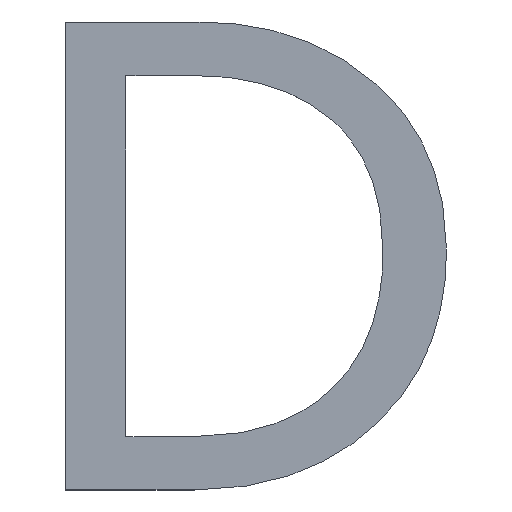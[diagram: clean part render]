
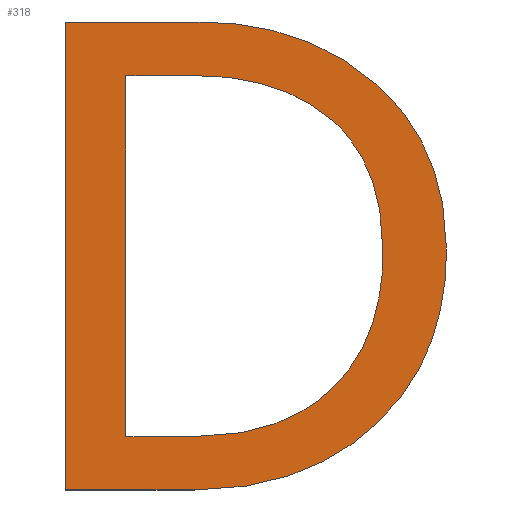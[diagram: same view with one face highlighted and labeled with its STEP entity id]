
A CAD part, top view. The second image highlights one B-rep face of the part: STEP entity #318.
In plain terms, the highlighted planar face has unit normal (0, 0, 1).
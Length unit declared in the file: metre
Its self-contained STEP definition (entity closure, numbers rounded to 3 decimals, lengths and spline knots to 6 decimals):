
#19=PLANE('',#435);
#27=LINE('',#565,#53);
#30=LINE('',#571,#56);
#32=LINE('',#574,#58);
#35=LINE('',#581,#61);
#38=LINE('',#587,#64);
#45=LINE('',#668,#71);
#53=VECTOR('',#447,1.);
#56=VECTOR('',#452,1.);
#58=VECTOR('',#456,1.);
#61=VECTOR('',#461,1.);
#64=VECTOR('',#466,1.);
#71=VECTOR('',#475,1.);
#142=ORIENTED_EDGE('',*,*,#174,.F.);
#143=ORIENTED_EDGE('',*,*,#176,.F.);
#144=ORIENTED_EDGE('',*,*,#158,.F.);
#145=ORIENTED_EDGE('',*,*,#162,.F.);
#146=ORIENTED_EDGE('',*,*,#165,.F.);
#147=ORIENTED_EDGE('',*,*,#168,.F.);
#148=ORIENTED_EDGE('',*,*,#171,.F.);
#149=ORIENTED_EDGE('',*,*,#197,.T.);
#150=ORIENTED_EDGE('',*,*,#194,.T.);
#151=ORIENTED_EDGE('',*,*,#191,.T.);
#152=ORIENTED_EDGE('',*,*,#188,.T.);
#153=ORIENTED_EDGE('',*,*,#185,.T.);
#154=ORIENTED_EDGE('',*,*,#182,.T.);
#155=ORIENTED_EDGE('',*,*,#179,.T.);
#158=EDGE_CURVE('',#200,#201,#227,.T.);
#162=EDGE_CURVE('',#203,#200,#229,.T.);
#165=EDGE_CURVE('',#205,#203,#231,.T.);
#168=EDGE_CURVE('',#207,#205,#233,.T.);
#171=EDGE_CURVE('',#209,#207,#27,.T.);
#174=EDGE_CURVE('',#211,#209,#30,.T.);
#176=EDGE_CURVE('',#201,#211,#32,.T.);
#179=EDGE_CURVE('',#215,#214,#35,.T.);
#182=EDGE_CURVE('',#217,#215,#38,.T.);
#185=EDGE_CURVE('',#219,#217,#235,.T.);
#188=EDGE_CURVE('',#221,#219,#237,.T.);
#191=EDGE_CURVE('',#223,#221,#239,.T.);
#194=EDGE_CURVE('',#225,#223,#241,.T.);
#197=EDGE_CURVE('',#214,#225,#45,.T.);
#200=VERTEX_POINT('',#496);
#201=VERTEX_POINT('',#501);
#203=VERTEX_POINT('',#517);
#205=VERTEX_POINT('',#536);
#207=VERTEX_POINT('',#555);
#209=VERTEX_POINT('',#564);
#211=VERTEX_POINT('',#570);
#214=VERTEX_POINT('',#580);
#215=VERTEX_POINT('',#582);
#217=VERTEX_POINT('',#588);
#219=VERTEX_POINT('',#607);
#221=VERTEX_POINT('',#626);
#223=VERTEX_POINT('',#645);
#225=VERTEX_POINT('',#664);
#227=B_SPLINE_CURVE_WITH_KNOTS('',3,(#497,#498,#499,#500),.UNSPECIFIED.,
 .F.,.F.,(4,4),(5.,6.),.UNSPECIFIED.);
#229=B_SPLINE_CURVE_WITH_KNOTS('',3,(#518,#519,#520,#521),.UNSPECIFIED.,
 .F.,.F.,(4,4),(4.,5.),.UNSPECIFIED.);
#231=B_SPLINE_CURVE_WITH_KNOTS('',3,(#537,#538,#539,#540),.UNSPECIFIED.,
 .F.,.F.,(4,4),(3.,4.),.UNSPECIFIED.);
#233=B_SPLINE_CURVE_WITH_KNOTS('',3,(#556,#557,#558,#559),.UNSPECIFIED.,
 .F.,.F.,(4,4),(2.,3.),.UNSPECIFIED.);
#235=B_SPLINE_CURVE_WITH_KNOTS('',3,(#603,#604,#605,#606),.UNSPECIFIED.,
 .F.,.F.,(4,4),(2.,3.),.UNSPECIFIED.);
#237=B_SPLINE_CURVE_WITH_KNOTS('',3,(#622,#623,#624,#625),.UNSPECIFIED.,
 .F.,.F.,(4,4),(3.,4.),.UNSPECIFIED.);
#239=B_SPLINE_CURVE_WITH_KNOTS('',3,(#641,#642,#643,#644),.UNSPECIFIED.,
 .F.,.F.,(4,4),(4.,5.),.UNSPECIFIED.);
#241=B_SPLINE_CURVE_WITH_KNOTS('',3,(#660,#661,#662,#663),.UNSPECIFIED.,
 .F.,.F.,(4,4),(5.,6.),.UNSPECIFIED.);
#258=EDGE_LOOP('',(#142,#143,#144,#145,#146,#147,#148));
#259=EDGE_LOOP('',(#149,#150,#151,#152,#153,#154,#155));
#276=FACE_BOUND('',#258,.T.);
#277=FACE_BOUND('',#259,.T.);
#318=ADVANCED_FACE('',(#276,#277),#19,.T.);
#435=AXIS2_PLACEMENT_3D('',#670,#478,#479);
#447=DIRECTION('',(1.,0.,0.));
#452=DIRECTION('',(0.,-1.,0.));
#456=DIRECTION('',(-1.,0.,0.));
#461=DIRECTION('',(0.,-1.,0.));
#466=DIRECTION('',(-1.,0.,0.));
#475=DIRECTION('',(1.,0.,0.));
#478=DIRECTION('',(0.,0.,1.));
#479=DIRECTION('',(1.,0.,0.));
#496=CARTESIAN_POINT('',(-0.062509,-0.006434,0.024401));
#497=CARTESIAN_POINT('',(-0.062509,-0.006434,0.024401));
#498=CARTESIAN_POINT('',(-0.062567,-0.006385,0.024401));
#499=CARTESIAN_POINT('',(-0.062643,-0.00636,0.024401));
#500=CARTESIAN_POINT('',(-0.062738,-0.00636,0.024401));
#501=CARTESIAN_POINT('',(-0.062738,-0.00636,0.024401));
#517=CARTESIAN_POINT('',(-0.062422,-0.006658,0.024401));
#518=CARTESIAN_POINT('',(-0.062422,-0.006658,0.024401));
#519=CARTESIAN_POINT('',(-0.062422,-0.006559,0.024401));
#520=CARTESIAN_POINT('',(-0.062451,-0.006484,0.024401));
#521=CARTESIAN_POINT('',(-0.062509,-0.006434,0.024401));
#536=CARTESIAN_POINT('',(-0.062507,-0.006889,0.024401));
#537=CARTESIAN_POINT('',(-0.062507,-0.006889,0.024401));
#538=CARTESIAN_POINT('',(-0.06245,-0.006834,0.024401));
#539=CARTESIAN_POINT('',(-0.062422,-0.006757,0.024401));
#540=CARTESIAN_POINT('',(-0.062422,-0.006658,0.024401));
#555=CARTESIAN_POINT('',(-0.062743,-0.006971,0.024401));
#556=CARTESIAN_POINT('',(-0.062743,-0.006971,0.024401));
#557=CARTESIAN_POINT('',(-0.062642,-0.006971,0.024401));
#558=CARTESIAN_POINT('',(-0.062563,-0.006944,0.024401));
#559=CARTESIAN_POINT('',(-0.062507,-0.006889,0.024401));
#564=CARTESIAN_POINT('',(-0.062858,-0.006971,0.024401));
#565=CARTESIAN_POINT('',(-0.062858,-0.006971,0.024401));
#570=CARTESIAN_POINT('',(-0.062858,-0.00636,0.024401));
#571=CARTESIAN_POINT('',(-0.062858,-0.00636,0.024401));
#574=CARTESIAN_POINT('',(-0.062738,-0.00636,0.024401));
#580=CARTESIAN_POINT('',(-0.06296,-0.007062,0.024401));
#581=CARTESIAN_POINT('',(-0.06296,-0.007062,0.024401));
#582=CARTESIAN_POINT('',(-0.06296,-0.006269,0.024401));
#587=CARTESIAN_POINT('',(-0.06296,-0.006269,0.024401));
#588=CARTESIAN_POINT('',(-0.062734,-0.006269,0.024401));
#603=CARTESIAN_POINT('',(-0.062434,-0.006374,0.024401));
#604=CARTESIAN_POINT('',(-0.062514,-0.006303,0.024401));
#605=CARTESIAN_POINT('',(-0.062614,-0.006269,0.024401));
#606=CARTESIAN_POINT('',(-0.062734,-0.006269,0.024401));
#607=CARTESIAN_POINT('',(-0.062434,-0.006374,0.024401));
#622=CARTESIAN_POINT('',(-0.062314,-0.006655,0.024401));
#623=CARTESIAN_POINT('',(-0.062314,-0.006537,0.024401));
#624=CARTESIAN_POINT('',(-0.062354,-0.006444,0.024401));
#625=CARTESIAN_POINT('',(-0.062434,-0.006374,0.024401));
#626=CARTESIAN_POINT('',(-0.062314,-0.006655,0.024401));
#641=CARTESIAN_POINT('',(-0.062434,-0.006951,0.024401));
#642=CARTESIAN_POINT('',(-0.062354,-0.006876,0.024401));
#643=CARTESIAN_POINT('',(-0.062314,-0.006778,0.024401));
#644=CARTESIAN_POINT('',(-0.062314,-0.006655,0.024401));
#645=CARTESIAN_POINT('',(-0.062434,-0.006951,0.024401));
#660=CARTESIAN_POINT('',(-0.062742,-0.007062,0.024401));
#661=CARTESIAN_POINT('',(-0.062616,-0.007062,0.024401));
#662=CARTESIAN_POINT('',(-0.062514,-0.007025,0.024401));
#663=CARTESIAN_POINT('',(-0.062434,-0.006951,0.024401));
#664=CARTESIAN_POINT('',(-0.062742,-0.007062,0.024401));
#668=CARTESIAN_POINT('',(-0.062742,-0.007062,0.024401));
#670=CARTESIAN_POINT('',(-0.062569,-0.006295,0.024401));
